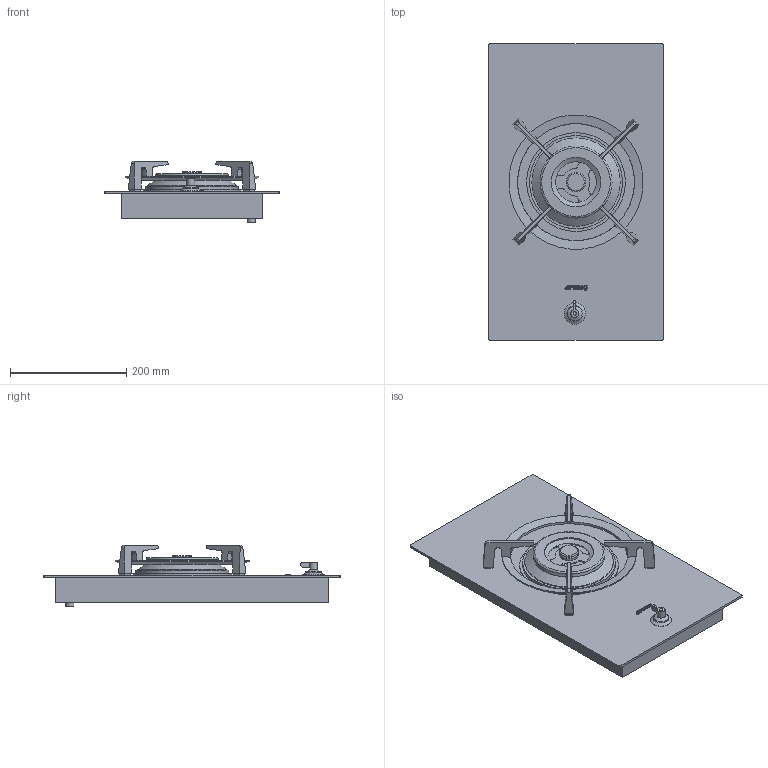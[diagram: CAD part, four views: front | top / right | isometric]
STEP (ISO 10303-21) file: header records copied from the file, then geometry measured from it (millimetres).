
FILE_DESCRIPTION(/* description */ (''),/* implementation_level */ '2;1');
FILE_NAME(/* name */ 'piano pv331.stp',/* time_stamp */ '2018-07-30T10:58:27+02:00',/* author */ (''),/* organization */ (''),/* preprocessor_version */ 'ST-DEVELOPER v16',/* originating_system */ 'SIEMENS PLM Software NX 11.0',/* authorisation */ '');
FILE_SCHEMA (('AUTOMOTIVE_DESIGN { 1 0 10303 214 3 1 1 1 }'));
Length unit declared in the file: millimetre
Products named in the file (1): gobb5E40347Co2gm
Bounding box: 300 x 510 x 106 mm (x, y, z)
Volume: 5827090.6 mm3; surface area: 750758.9 mm2
Topology: 19 solids, 19 shells, 283 faces, 660 edges, 435 vertices
Faces by surface type: plane 170, cylinder 88, extrusion 11, cone 7, torus 4, revolution 3
Full cylindrical faces by diameter (mm): 3.37 x6, 6 x1, 13.5 x1, 14 x2, 20 x1, 23 x1, 23.5 x1, 25 x1, 27 x1, 28 x1, 32 x1, 37 x1, 79.5 x1, 85 x1, 89.5 x1, 90 x1, 98.5 x1, 106.5 x1, 111 x1, 113.5 x1, 122 x1, 124 x1, 152 x1, 160 x1, 170 x1, 231.327 x1
Entity records: 8198 total; most frequent: CARTESIAN_POINT 1695, DIRECTION 1310, ORIENTED_EDGE 1202, EDGE_CURVE 601, AXIS2_PLACEMENT_3D 461, VERTEX_POINT 424, VECTOR 385, LINE 374
